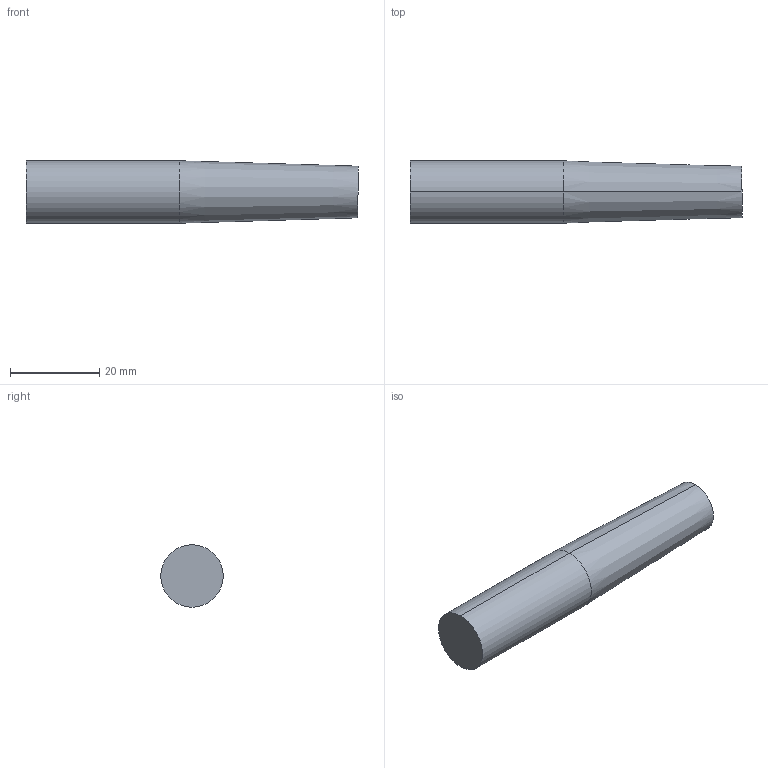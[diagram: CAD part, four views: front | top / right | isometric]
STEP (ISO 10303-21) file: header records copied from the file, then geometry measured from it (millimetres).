
FILE_DESCRIPTION (( 'STEP AP214' ), '1' );
FILE_NAME ('Sensotronic-Antriebsmuffe.STEP', '2010-10-15T08:49:19', ( 'grass' ), ( '' ), 'SwSTEP 2.0', 'SolidWorks 2010', '' );
FILE_SCHEMA (( 'AUTOMOTIVE_DESIGN' ));
Length unit declared in the file: millimetre
Products named in the file (1): Sensotronic-Antriebsmuffe
Bounding box: 74.5 x 14 x 14 mm (x, y, z)
Volume: 10473.1 mm3; surface area: 3386.2 mm2
Topology: 1 solids, 1 shells, 6 faces, 10 edges, 6 vertices
Faces by surface type: cylinder 2, cone 2, plane 2
Entity records: 178 total; most frequent: DIRECTION 30, CARTESIAN_POINT 23, ORIENTED_EDGE 20, AXIS2_PLACEMENT_3D 13, EDGE_CURVE 10, ADVANCED_FACE 6, EDGE_LOOP 6, CIRCLE 6
